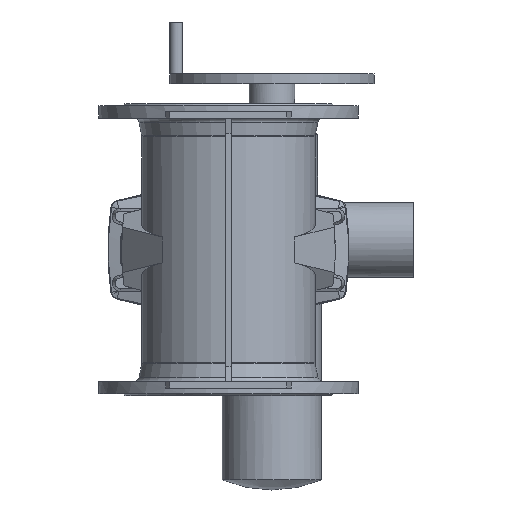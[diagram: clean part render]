
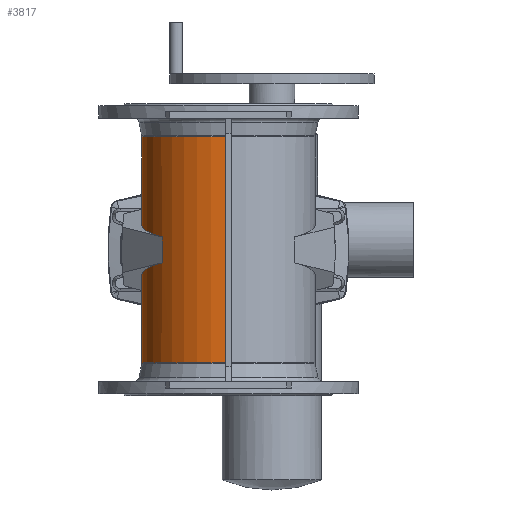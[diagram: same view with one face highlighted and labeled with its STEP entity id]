
A CAD part, front view. The second image highlights one B-rep face of the part: STEP entity #3817.
In plain terms, the highlighted cylindrical face has radius 133.5 mm (diameter 267 mm), a partial arc.
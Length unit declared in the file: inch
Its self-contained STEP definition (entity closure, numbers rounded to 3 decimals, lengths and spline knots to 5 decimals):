
#937 = AXIS2_PLACEMENT_3D ( 'NONE', #8996, #8997, #8998 ) ;
#940 = AXIS2_PLACEMENT_3D ( 'NONE', #9044, #9045, #9046 ) ;
#1600 = FACE_OUTER_BOUND ( 'NONE', #7181, .T. ) ;
#1612 = CYLINDRICAL_SURFACE ( 'NONE', #11527, 5.25591 ) ;
#3262 = DIRECTION ( 'NONE',  ( -1., 0., 0. ) ) ;
#3266 = DIRECTION ( 'NONE',  ( 0., 0., -1. ) ) ;
#3267 = CARTESIAN_POINT ( 'NONE',  ( 0., 0., 27.71285 ) ) ;
#3817 = ADVANCED_FACE ( 'NONE', ( #1600 ), #1612, .T. ) ;
#5143 = VERTEX_POINT ( 'NONE', #13833 ) ;
#5149 = VERTEX_POINT ( 'NONE', #13839 ) ;
#5156 = VERTEX_POINT ( 'NONE', #13846 ) ;
#5166 = VERTEX_POINT ( 'NONE', #13856 ) ;
#5171 = VERTEX_POINT ( 'NONE', #13861 ) ;
#5172 = VERTEX_POINT ( 'NONE', #13862 ) ;
#5174 = VERTEX_POINT ( 'NONE', #13864 ) ;
#5184 = VERTEX_POINT ( 'NONE', #13874 ) ;
#6951 = ORIENTED_EDGE ( 'NONE', *, *, #12608, .T. ) ;
#6952 = ORIENTED_EDGE ( 'NONE', *, *, #12625, .F. ) ;
#6953 = ORIENTED_EDGE ( 'NONE', *, *, #12600, .F. ) ;
#6954 = ORIENTED_EDGE ( 'NONE', *, *, #12615, .T. ) ;
#6955 = ORIENTED_EDGE ( 'NONE', *, *, #12607, .F. ) ;
#6956 = ORIENTED_EDGE ( 'NONE', *, *, #12633, .T. ) ;
#6957 = ORIENTED_EDGE ( 'NONE', *, *, #12611, .T. ) ;
#7181 = EDGE_LOOP ( 'NONE', ( #13379, #6951, #6952, #6953, #6954, #6955, #6956, #6957 ) ) ;
#8120 = LINE ( 'NONE', #8913, #8121 ) ;
#8121 = VECTOR ( 'NONE', #8934, 39.37008 ) ;
#8137 = CIRCLE ( 'NONE', #937, 5.25591 ) ;
#8138 = CIRCLE ( 'NONE', #940, 5.25591 ) ;
#8144 = LINE ( 'NONE', #9060, #8150 ) ;
#8150 = VECTOR ( 'NONE', #9072, 39.37008 ) ;
#8161 = LINE ( 'NONE', #9085, #8165 ) ;
#8165 = VECTOR ( 'NONE', #9089, 39.37008 ) ;
#8172 = LINE ( 'NONE', #9122, #8174 ) ;
#8174 = VECTOR ( 'NONE', #9126, 39.37008 ) ;
#8913 = CARTESIAN_POINT ( 'NONE',  ( -0.17717, 5.25292, 0. ) ) ;
#8934 = DIRECTION ( 'NONE',  ( 0., 0., 1. ) ) ;
#8996 = CARTESIAN_POINT ( 'NONE',  ( 0., 0., 6.84782 ) ) ;
#8997 = DIRECTION ( 'NONE',  ( 0., 0., 1. ) ) ;
#8998 = DIRECTION ( 'NONE',  ( 1., 0., 0. ) ) ;
#9004 = CARTESIAN_POINT ( 'NONE',  ( -4.02626, -3.37843, 0.78772 ) ) ;
#9034 = CARTESIAN_POINT ( 'NONE',  ( -7.26499, 0.48134, 1.58551 ) ) ;
#9040 = CARTESIAN_POINT ( 'NONE',  ( -5.21287, 5.08308, 2.64238 ) ) ;
#9041 = CARTESIAN_POINT ( 'NONE',  ( -0.17717, 5.25292, 2.77006 ) ) ;
#9044 = CARTESIAN_POINT ( 'NONE',  ( 0., 0., -6.84782 ) ) ;
#9045 = DIRECTION ( 'NONE',  ( 0., 0., 1. ) ) ;
#9046 = DIRECTION ( 'NONE',  ( 1., 0., 0. ) ) ;
#9051 = CARTESIAN_POINT ( 'NONE',  ( -4.02626, -3.37843, -0.78772 ) ) ;
#9052 = CARTESIAN_POINT ( 'NONE',  ( -7.26499, 0.48134, -1.58551 ) ) ;
#9057 = CARTESIAN_POINT ( 'NONE',  ( -5.21287, 5.08308, -2.64238 ) ) ;
#9058 = CARTESIAN_POINT ( 'NONE',  ( -0.17717, 5.25292, -2.77006 ) ) ;
#9060 = CARTESIAN_POINT ( 'NONE',  ( -0.17717, 5.25292, 0. ) ) ;
#9072 = DIRECTION ( 'NONE',  ( 0., 0., -1. ) ) ;
#9085 = CARTESIAN_POINT ( 'NONE',  ( -0.16732, -5.25324, 27.71285 ) ) ;
#9089 = DIRECTION ( 'NONE',  ( 0., 0., -1. ) ) ;
#9122 = CARTESIAN_POINT ( 'NONE',  ( -4.02626, -3.37843, 27.71285 ) ) ;
#9126 = DIRECTION ( 'NONE',  ( 0., 0., -1. ) ) ;
#11527 = AXIS2_PLACEMENT_3D ( 'NONE', #3267, #3266, #3262 ) ;
#12586 = EDGE_CURVE ( 'NONE', #5184, #5174, #8120, .T. ) ;
#12600 = EDGE_CURVE ( 'NONE', #5172, #5143, #8137, .T. ) ;
#12607 = EDGE_CURVE ( 'NONE', #5171, #5156, #13515, .T. ) ;
#12608 = EDGE_CURVE ( 'NONE', #5184, #5149, #8138, .T. ) ;
#12611 = EDGE_CURVE ( 'NONE', #5166, #5174, #13530, .T. ) ;
#12615 = EDGE_CURVE ( 'NONE', #5172, #5156, #8144, .T. ) ;
#12625 = EDGE_CURVE ( 'NONE', #5143, #5149, #8161, .T. ) ;
#12633 = EDGE_CURVE ( 'NONE', #5171, #5166, #8172, .T. ) ;
#13379 = ORIENTED_EDGE ( 'NONE', *, *, #12586, .F. ) ;
#13515 =( BOUNDED_CURVE ( )  B_SPLINE_CURVE ( 3, ( #9004, #9034, #9040, #9041 ),
 .UNSPECIFIED., .F., .F. ) 
 B_SPLINE_CURVE_WITH_KNOTS ( ( 4, 4 ),
 ( 0.79219, 3.02741 ),
 .UNSPECIFIED. ) 
 CURVE ( )  GEOMETRIC_REPRESENTATION_ITEM ( )  RATIONAL_B_SPLINE_CURVE ( ( 1., 0.625, 0.625, 1. ) ) 
 REPRESENTATION_ITEM ( '' )  );
#13530 =( BOUNDED_CURVE ( )  B_SPLINE_CURVE ( 3, ( #9051, #9052, #9057, #9058 ),
 .UNSPECIFIED., .F., .F. ) 
 B_SPLINE_CURVE_WITH_KNOTS ( ( 4, 4 ),
 ( 0.79219, 3.02741 ),
 .UNSPECIFIED. ) 
 CURVE ( )  GEOMETRIC_REPRESENTATION_ITEM ( )  RATIONAL_B_SPLINE_CURVE ( ( 1., 0.625, 0.625, 1. ) ) 
 REPRESENTATION_ITEM ( '' )  );
#13833 = CARTESIAN_POINT ( 'NONE',  ( -0.16732, -5.25324, 6.84782 ) ) ;
#13839 = CARTESIAN_POINT ( 'NONE',  ( -0.16732, -5.25324, -6.84782 ) ) ;
#13846 = CARTESIAN_POINT ( 'NONE',  ( -0.17717, 5.25292, 2.77006 ) ) ;
#13856 = CARTESIAN_POINT ( 'NONE',  ( -4.02626, -3.37843, -0.78772 ) ) ;
#13861 = CARTESIAN_POINT ( 'NONE',  ( -4.02626, -3.37843, 0.78772 ) ) ;
#13862 = CARTESIAN_POINT ( 'NONE',  ( -0.17717, 5.25292, 6.84782 ) ) ;
#13864 = CARTESIAN_POINT ( 'NONE',  ( -0.17717, 5.25292, -2.77006 ) ) ;
#13874 = CARTESIAN_POINT ( 'NONE',  ( -0.17717, 5.25292, -6.84782 ) ) ;
